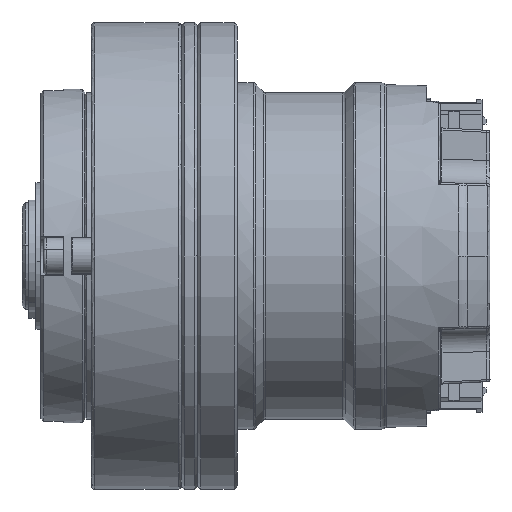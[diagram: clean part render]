
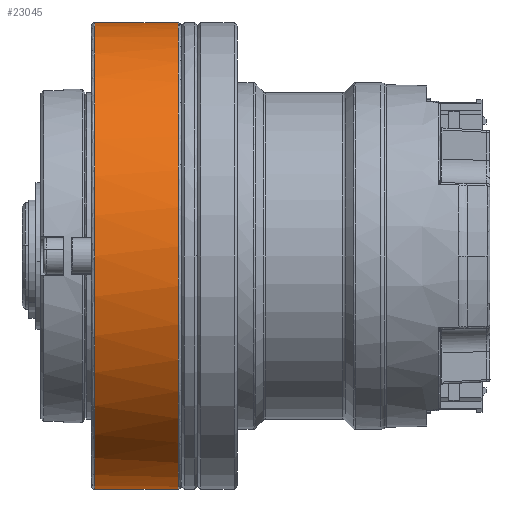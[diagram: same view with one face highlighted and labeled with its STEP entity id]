
A CAD part, left-side view. The second image highlights one B-rep face of the part: STEP entity #23045.
In plain terms, the highlighted cylindrical face has radius 35 mm (diameter 70 mm), a partial arc.
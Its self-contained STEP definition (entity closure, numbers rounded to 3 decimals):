
#7369 = CARTESIAN_POINT ( 'NONE',  ( 0., -0.6, 35. ) ) ;
#7988 = CARTESIAN_POINT ( 'NONE',  ( 0., -0.1, -35. ) ) ;
#8679 = CARTESIAN_POINT ( 'NONE',  ( -70., -0.1, -35. ) ) ;
#12665 = CYLINDRICAL_SURFACE ( 'NONE', #92596, 35. ) ;
#13381 = ORIENTED_EDGE ( 'NONE', *, *, #40046, .T. ) ;
#15529 = FACE_OUTER_BOUND ( 'NONE', #75433, .T. ) ;
#20608 = EDGE_CURVE ( 'NONE', #68603, #109795, #98475, .T. ) ;
#20748 = VECTOR ( 'NONE', #76322, 1000. ) ;
#23045 = ADVANCED_FACE ( 'NONE', ( #15529 ), #12665, .T. ) ;
#24220 = EDGE_CURVE ( 'NONE', #97572, #46990, #36438, .T. ) ;
#30125 = CIRCLE ( 'NONE', #52042, 35. ) ;
#32961 = EDGE_CURVE ( 'NONE', #46990, #109795, #81624, .T. ) ;
#34750 = CARTESIAN_POINT ( 'NONE',  ( -70., -0.1, 35. ) ) ;
#36438 = LINE ( 'NONE', #84329, #20748 ) ;
#36888 = DIRECTION ( 'NONE',  ( 0., 0., 1. ) ) ;
#40046 = EDGE_CURVE ( 'NONE', #68603, #97572, #30125, .T. ) ;
#46724 = VECTOR ( 'NONE', #108587, 1000. ) ;
#46990 = VERTEX_POINT ( 'NONE', #7988 ) ;
#50479 = CARTESIAN_POINT ( 'NONE',  ( 0., 12.4, -35. ) ) ;
#52042 = AXIS2_PLACEMENT_3D ( 'NONE', #102232, #85649, #57956 ) ;
#57803 = ORIENTED_EDGE ( 'NONE', *, *, #20608, .F. ) ;
#57956 = DIRECTION ( 'NONE',  ( -1., 0., 0. ) ) ;
#61965 = CARTESIAN_POINT ( 'NONE',  ( 0., -0.1, 35. ) ) ;
#68603 = VERTEX_POINT ( 'NONE', #99838 ) ;
#75433 = EDGE_LOOP ( 'NONE', ( #13381, #76301, #87206, #57803 ) ) ;
#76301 = ORIENTED_EDGE ( 'NONE', *, *, #24220, .T. ) ;
#76322 = DIRECTION ( 'NONE',  ( 0., -1., 0. ) ) ;
#80546 = CARTESIAN_POINT ( 'NONE',  ( 0., -0.1, 35. ) ) ;
#81624 =( BOUNDED_CURVE ( )  B_SPLINE_CURVE ( 3, ( #109858, #8679, #34750, #61965 ),
 .UNSPECIFIED., .F., .F. ) 
 B_SPLINE_CURVE_WITH_KNOTS ( ( 4, 4 ),
 ( 0., 208.939 ),
 .UNSPECIFIED. ) 
 CURVE ( )  GEOMETRIC_REPRESENTATION_ITEM ( )  RATIONAL_B_SPLINE_CURVE ( ( 1., 0.333, 0.333, 1. ) ) 
 REPRESENTATION_ITEM ( '' )  );
#84329 = CARTESIAN_POINT ( 'NONE',  ( 0., -0.6, -35. ) ) ;
#85649 = DIRECTION ( 'NONE',  ( 0., -1., 0. ) ) ;
#87206 = ORIENTED_EDGE ( 'NONE', *, *, #32961, .T. ) ;
#92596 = AXIS2_PLACEMENT_3D ( 'NONE', #99566, #109260, #36888 ) ;
#97572 = VERTEX_POINT ( 'NONE', #50479 ) ;
#98475 = LINE ( 'NONE', #7369, #46724 ) ;
#99566 = CARTESIAN_POINT ( 'NONE',  ( 0., -0.6, 0. ) ) ;
#99838 = CARTESIAN_POINT ( 'NONE',  ( 0., 12.4, 35. ) ) ;
#102232 = CARTESIAN_POINT ( 'NONE',  ( 0., 12.4, 0. ) ) ;
#108587 = DIRECTION ( 'NONE',  ( 0., -1., 0. ) ) ;
#109260 = DIRECTION ( 'NONE',  ( 0., -1., 0. ) ) ;
#109795 = VERTEX_POINT ( 'NONE', #80546 ) ;
#109858 = CARTESIAN_POINT ( 'NONE',  ( 0., -0.1, -35. ) ) ;
